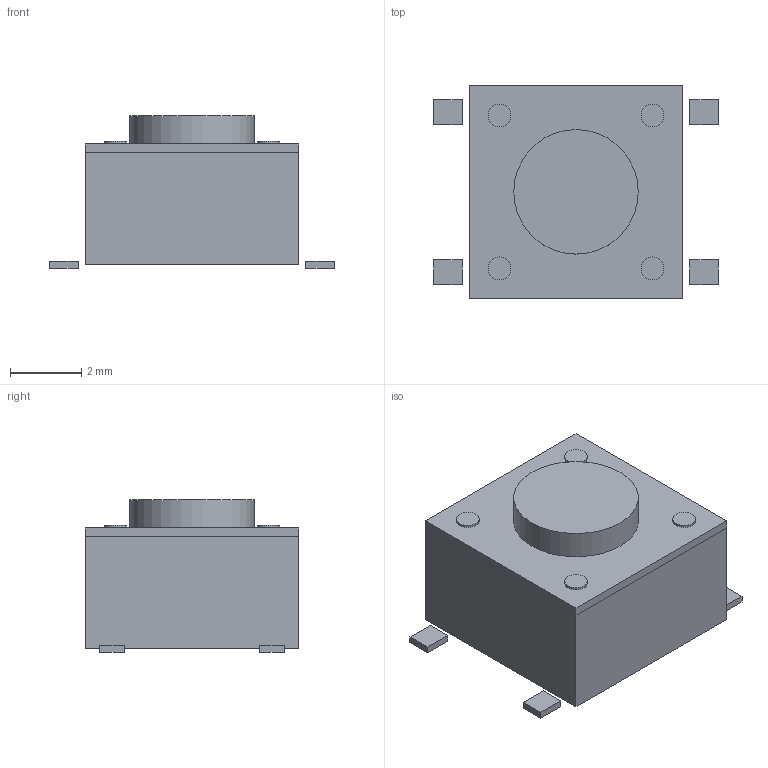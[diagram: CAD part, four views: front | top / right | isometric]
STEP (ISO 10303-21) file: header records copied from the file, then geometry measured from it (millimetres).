
FILE_DESCRIPTION(('Open CASCADE Model'),'2;1');
FILE_NAME('Open CASCADE Shape Model','2026-10-09T23:01:25',('Author'),( 'Open CASCADE'),'Open CASCADE STEP processor 7.9','Open CASCADE 7.9' ,'Unknown');
FILE_SCHEMA(('AUTOMOTIVE_DESIGN { 1 0 10303 214 1 1 1 1 }'));
Length unit declared in the file: millimetre
Products named in the file (12): KLS_TS6604_4p3; base; cover; actuator; lead0_0; lead0_1; lead1_0; lead1_1; rivet0_0; rivet0_1; rivet1_0; rivet1_1
Assembly tree (11 placements, depth 2):
  KLS_TS6604_4p3
    base
    cover
    actuator
    lead0_0
    lead0_1
    lead1_0
    lead1_1
    rivet0_0
    rivet0_1
    rivet1_0
    rivet1_1
Bounding box: 8 x 6 x 4.3 mm (x, y, z)
Volume: 130.6 mm3; surface area: 263.7 mm2
Topology: 11 solids, 11 shells, 51 faces, 87 edges, 58 vertices
Faces by surface type: plane 46, cylinder 5
Full cylindrical faces by diameter (mm): 0.64 x4, 3.5 x1
Entity records: 2601 total; most frequent: DIRECTION 397, CARTESIAN_POINT 382, LINE 241, VECTOR 241, ORIENTED_EDGE 174, PCURVE 174, DEFINITIONAL_REPRESENTATION 174, EDGE_CURVE 87
